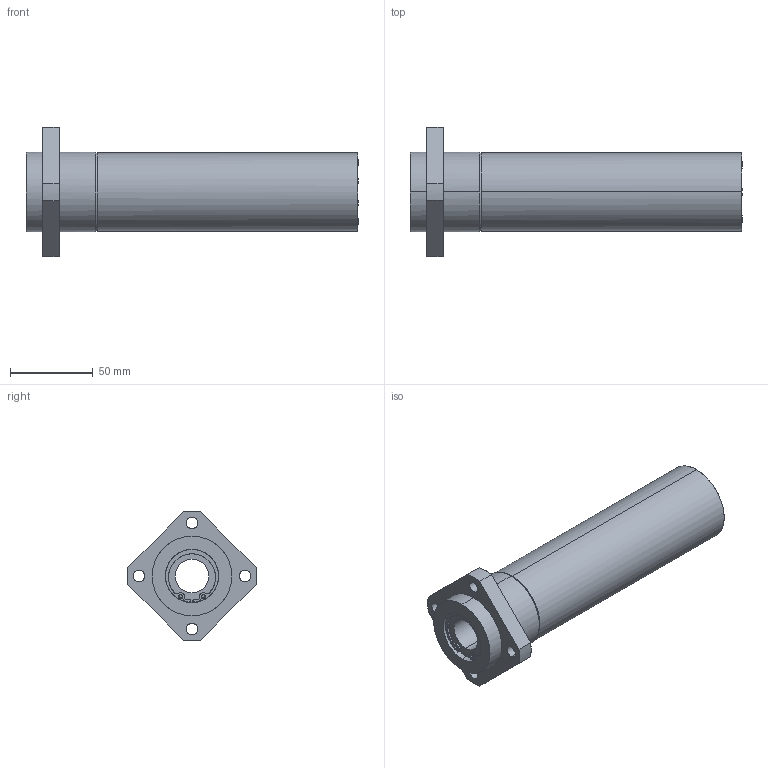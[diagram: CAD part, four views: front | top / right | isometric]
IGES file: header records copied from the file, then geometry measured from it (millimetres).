
Global section: file name: No Iges File Name specified; native system: AutoDesk Inventor R11.0; preprocessor: AutoDesk Inventor Iges Exporter R11.0; author: No Author specified; organization: No Organization specified; date: 20170922.140054; units: millimetre
Bounding box: 200 x 77.99 x 78 mm (x, y, z)
Surface area: 55133.6 mm2 (no closed solid volume)
Topology: 0 solids, 0 shells, 133 faces, 956 edges, 956 vertices
Faces by surface type: bspline 133
